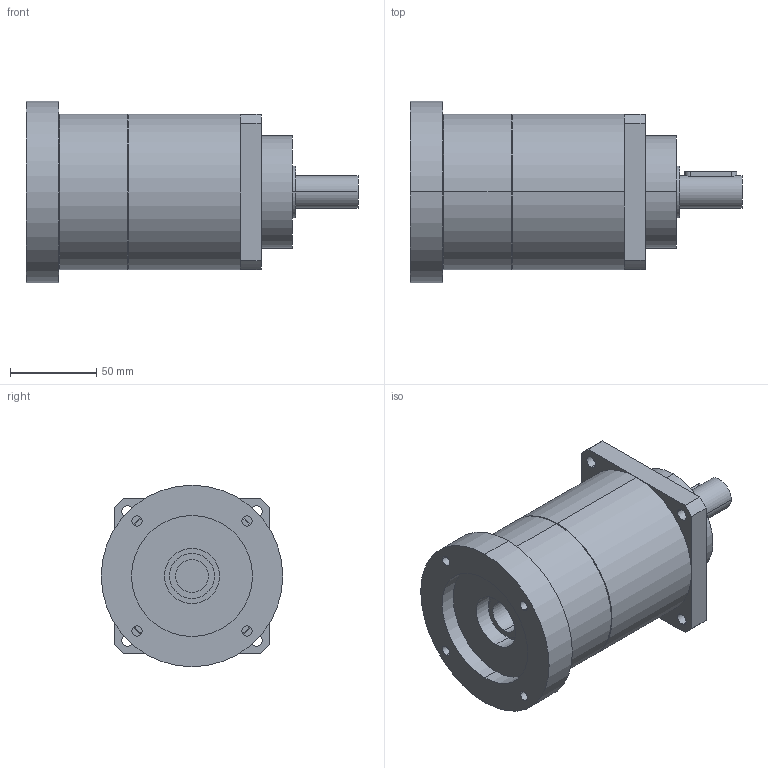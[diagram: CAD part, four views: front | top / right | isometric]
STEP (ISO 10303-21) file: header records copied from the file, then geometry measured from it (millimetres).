
FILE_DESCRIPTION(('CoCreate Modeling STEP Export'),'2;1');
FILE_NAME('GPT90_ig-9-12-16-20-25-28-35-40-50-70-100_19_B5T_19_P14.stp','2015-02-04T11:32:56',(''),(''),'CoCreate Modeling STEP processor for AP214 (Solid Model)','CoCreate Modeling 16.00C 25-Feb-2009 (C) Parametric Technology GmbH','');
FILE_SCHEMA(('AUTOMOTIVE_DESIGN { 1 0 10303 214 1 1 1 1 }'));
Length unit declared in the file: millimetre
Products named in the file (2): GPT90_ig-9-12-16-20-25-28-35-40-50-70-100_19_B5T_19_P14
Assembly tree (1 placements, depth 2):
  GPT90_ig-9-12-16-20-25-28-35-40-50-70-100_19_B5T_19_P14
    GPT90_ig-9-12-16-20-25-28-35-40-50-70-100_19_B5T_19_P14
Bounding box: 192 x 105 x 105 mm (x, y, z)
Volume: 945332.3 mm3; surface area: 75076 mm2
Topology: 1 solids, 1 shells, 75 faces, 205 edges, 138 vertices
Faces by surface type: cylinder 44, plane 27, cone 4
Entity records: 2477 total; most frequent: CARTESIAN_POINT 717, ORIENTED_EDGE 410, DIRECTION 294, EDGE_CURVE 205, VERTEX_POINT 138, AXIS2_PLACEMENT_3D 112, EDGE_LOOP 97, FACE_OUTER_BOUND 75
